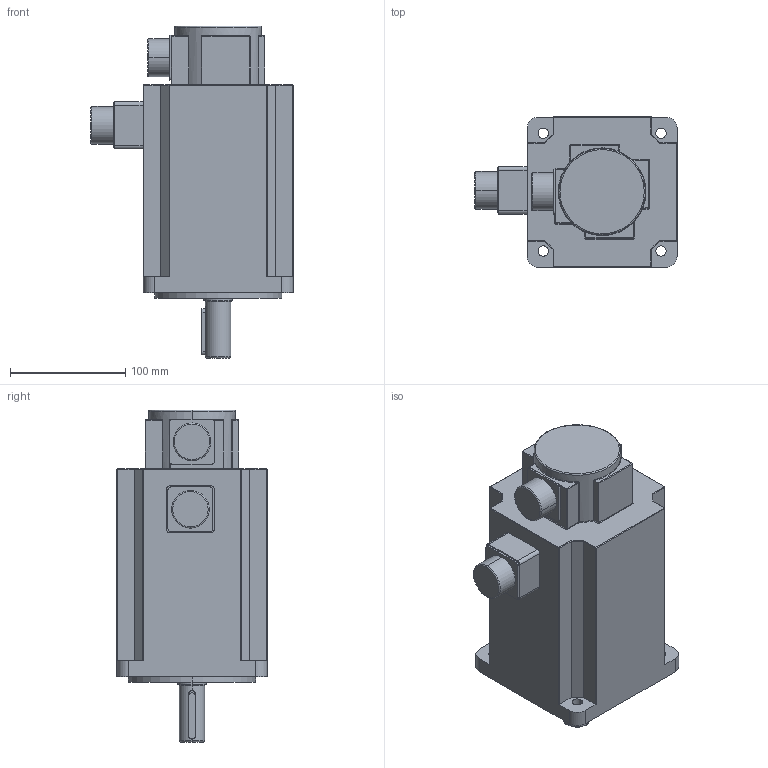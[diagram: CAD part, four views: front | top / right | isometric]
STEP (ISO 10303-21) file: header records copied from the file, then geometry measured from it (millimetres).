
FILE_DESCRIPTION (( 'STEP AP203' ), '1' );
FILE_NAME ('ACH13380C.STEP', '2013-03-06T12:03:16', ( '' ), ( '' ), 'SwSTEP 2.0', 'SolidWorks 2012', '' );
FILE_SCHEMA (( 'CONFIG_CONTROL_DESIGN' ));
Length unit declared in the file: millimetre
Products named in the file (1): ACH13380C
Bounding box: 175.2 x 130 x 287.5 mm (x, y, z)
Volume: 3103633.1 mm3; surface area: 165077.3 mm2
Topology: 3 solids, 3 shells, 275 faces, 648 edges, 376 vertices
Faces by surface type: cylinder 128, plane 88, torus 27, sphere 24, bspline 8
Entity records: 8136 total; most frequent: CARTESIAN_POINT 1734, DIRECTION 1427, ORIENTED_EDGE 1256, EDGE_CURVE 628, AXIS2_PLACEMENT_3D 559, VERTEX_POINT 376, VECTOR 309, LINE 309
